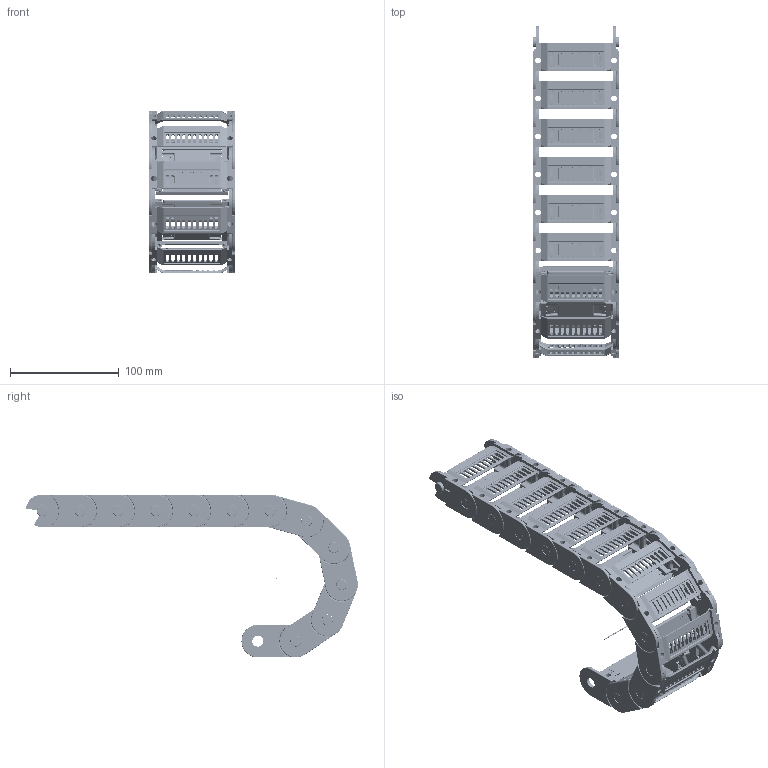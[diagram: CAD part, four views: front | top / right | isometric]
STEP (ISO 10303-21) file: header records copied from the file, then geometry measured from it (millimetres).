
FILE_DESCRIPTION((''),'2;1');
FILE_NAME('C:\Uebbing\PARAMETERKETTEN\KOLIBRI\Kol_30_080_0\KOLIBRI 30_080_0_R60.stp','2012-03-05T10:09:55',('Uebbing'),(''),'Autodesk Inventor 10','Autodesk Inventor 10','');
FILE_SCHEMA(('AUTOMOTIVE_DESIGN { 1 0 10303 214 1 1 1 1 }'));
Length unit declared in the file: millimetre
Products named in the file (5): KOLIBRI 30_080_0_PARAMETRISCH; Achse; Kol_30_080_0 Glied; Kol 30_080_0 Lasche; Kol 30_080_0 Klappsteg
Assembly tree (15 placements, depth 3):
  KOLIBRI 30_080_0_PARAMETRISCH
    Achse
    Kol_30_080_0 Glied  x12
      Kol 30_080_0 Lasche
      Kol 30_080_0 Klappsteg
Bounding box: 80 x 305.6 x 150 mm (x, y, z)
Volume: 221331.6 mm3; surface area: 204780.7 mm2
Topology: 25 solids, 25 shells, 12147 faces, 33136 edges, 21363 vertices
Faces by surface type: bspline 4836, plane 4742, cylinder 1945, torus 468, cone 120, sphere 36
Full cylindrical faces by diameter (mm): 1 x1, 1.166 x12, 2.048 x12, 2.8 x72, 5.1 x12, 10 x12, 10.1 x12
Entity records: 38643 total; most frequent: CARTESIAN_POINT 14476, ORIENTED_EDGE 5468, DIRECTION 4257, EDGE_CURVE 2734, VERTEX_POINT 1781, VECTOR 1623, LINE 1623, AXIS2_PLACEMENT_3D 1317
